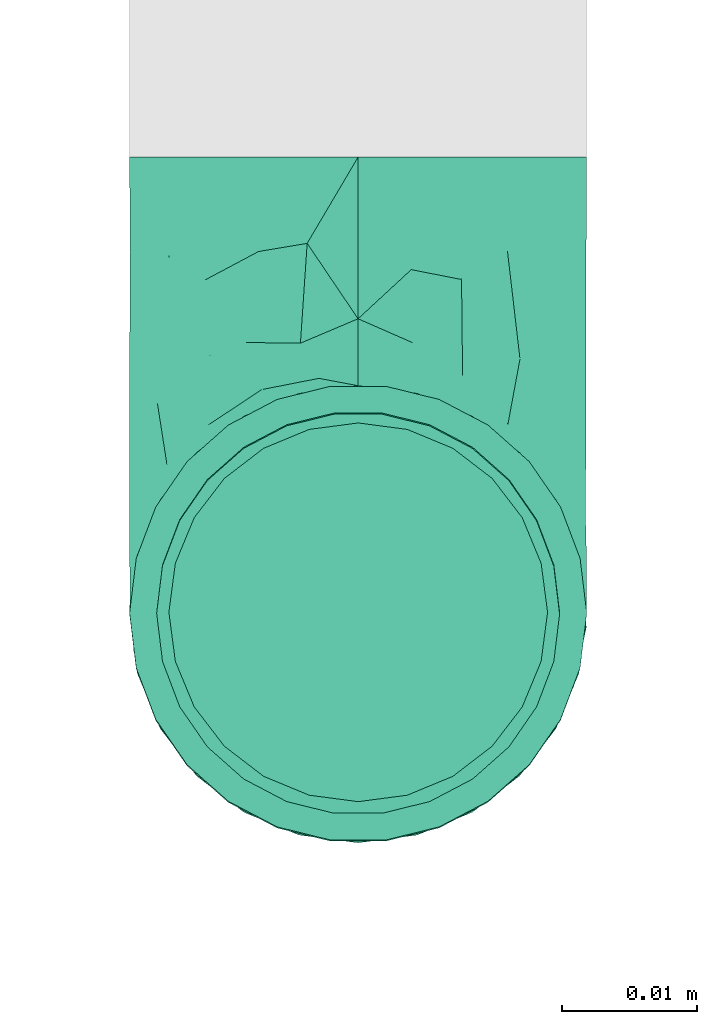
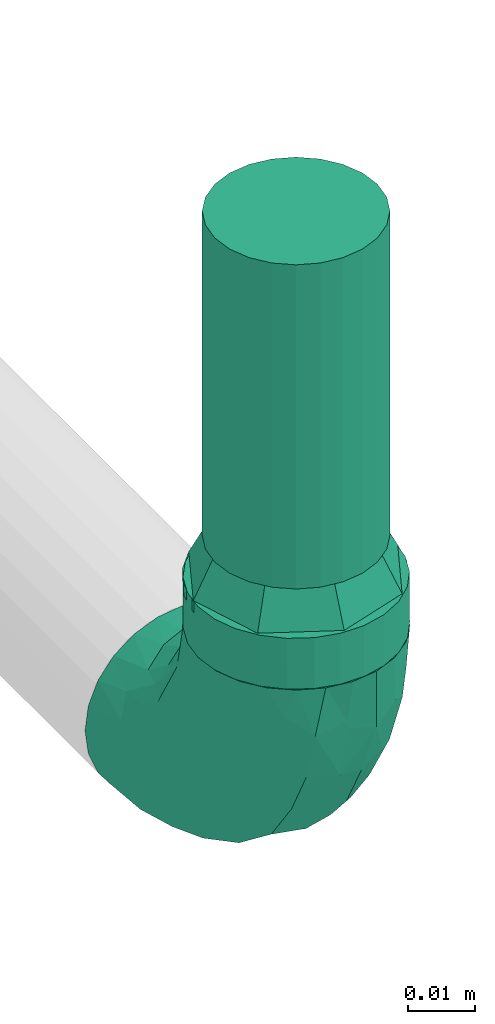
# One storey, part 26 of 43: 2 flow fittings, 1 flow segment, 1 flow terminal.
"""IFC2X3 building model written with IfcOpenShell, lengths in millimetres."""

from ifc_helpers import new_model, entity, si_unit, converted_unit, derived_unit, direction, frame, origin_with_axes, origin_2d_with_axis, place, context, subcontext, project, spatial, hollow_circle, extrude, open_shell, surface_model, source, transform, mapped, type_object, element, save


model = new_model("IFC2X3")

# Units and contexts
model_context = context("Model", 3, precision=0.01, world=frame((0.0, 4.29681676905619e-09, 0.0)), true_north=direction((4.01073788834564e-13, 1.0)))
plan_context = context("Plan", 3, precision=0.01, world=frame((0.0, 4.29681676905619e-09, 0.0)), true_north=direction((4.01073788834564e-13, 1.0)))
body_context = subcontext(model_context, "Body", "Model", "MODEL_VIEW")
ifc_project = project(units=[converted_unit("PLANEANGLEUNIT", "DEGREE", entity("IfcPositiveLengthMeasure", 0.0174532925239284), si_unit("PLANEANGLEUNIT", "RADIAN"), dimensions=[0, 0, 0, 0, 0, 0, 0]), si_unit("AREAUNIT", "SQUARE_METRE"), si_unit("LENGTHUNIT", "METRE", prefix="MILLI"), si_unit("MASSUNIT", "GRAM", prefix="KILO"), si_unit("POWERUNIT", "WATT"), si_unit("PRESSUREUNIT", "PASCAL"), si_unit("FORCEUNIT", "NEWTON", prefix="KILO"), si_unit("ELECTRICVOLTAGEUNIT", "VOLT"), si_unit("ELECTRICCURRENTUNIT", "AMPERE"), si_unit("THERMODYNAMICTEMPERATUREUNIT", "DEGREE_CELSIUS"), si_unit("TIMEUNIT", "SECOND"), si_unit("VOLUMEUNIT", "CUBIC_METRE"), derived_unit("LINEARVELOCITYUNIT", [(si_unit("LENGTHUNIT", "METRE"), 1), (si_unit("TIMEUNIT", "SECOND"), -1)]), derived_unit("VOLUMETRICFLOWRATEUNIT", [(si_unit("VOLUMEUNIT", "CUBIC_METRE"), 1), (si_unit("TIMEUNIT", "SECOND"), -1)]), derived_unit("THERMALTRANSMITTANCEUNIT", [(si_unit("POWERUNIT", "WATT"), 1), (si_unit("THERMODYNAMICTEMPERATUREUNIT", "KELVIN"), -1), (si_unit("AREAUNIT", "SQUARE_METRE"), -1)]), derived_unit("SOUNDPRESSUREUNIT", [(si_unit("PRESSUREUNIT", "PASCAL"), 1)])], contexts=[model_context, plan_context])

# Site, building, storey
site_placement = place(None, frame((0.0, -4.29681676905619e-09, 0.0), z_axis=(0.0, 0.0, 1.0), x_axis=(1.0, 0.0, 0.0)))
site = spatial("IfcSite", under=ifc_project, at=site_placement, CompositionType="ELEMENT")
building_placement = place(site_placement, frame((0.0, 4.29681676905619e-09, 0.0), z_axis=(0.0, 0.0, 1.0), x_axis=(1.0, 0.0, 0.0)))
building = spatial("IfcBuilding", under=site, at=building_placement, Name="mc-building", CompositionType="ELEMENT")
storey_placement = place(building_placement, frame((0.0, 0.0, 210900.0), z_axis=(0.0, 0.0, 1.0), x_axis=(1.0, 0.0, 0.0)))
storey = spatial("IfcBuildingStorey", under=building, at=storey_placement, Name="Nivå F", CompositionType="ELEMENT", Elevation=210900.0)

# Flow fittings
pipe_fitting_type_1 = type_object("IfcPipeFittingType", Name="magi_pipe_fe_elbow_short_001", PredefinedType="BEND")
shared_shape_1 = source(origin_with_axes(), body_context, "Body", "SurfaceModel", [
    surface_model("IfcShellBasedSurfaceModel", [(-33.8, 4.37404, -16.32415), (-33.8, 0.0, -16.9), (-33.8, 11.9501, -11.9501), (-33.8, 8.45, -14.63583), (-33.8, 16.32415, -4.37404), (-33.8, 14.63583, -8.45), (-33.8, -14.63583, -8.45), (-33.8, -16.32415, -4.37404), (-33.8, -8.45, 14.63583), (-33.8, -11.9501, -11.9501), (-33.8, -8.45, -14.63583), (-33.8, -4.37404, -16.32415), (-33.8, -16.9, 0.0), (-33.8, -16.32415, 4.37404), (-33.8, 11.9501, 11.9501), (-33.8, 14.63583, 8.45), (-33.8, 16.32415, 4.37404), (-33.8, 4.37404, 16.32415), (-33.8, 8.45, 14.63583), (-33.8, -14.63583, 8.45), (-33.8, -11.9501, 11.9501), (-33.8, -4.37404, 16.32415), (-33.8, 0.0, 16.9), (-33.8, 16.9, 0.0), (-11.9501, 33.8, -11.9501), (0.0, 33.8, -16.9), (-4.37404, 33.8, -16.32415), (-8.45, 33.8, -14.63583), (-14.63583, 33.8, -8.45), (-16.32415, 33.8, -4.37404), (14.63583, 33.8, -8.45), (8.45, 33.8, 14.63583), (16.32415, 33.8, -4.37404), (8.45, 33.8, -14.63583), (11.9501, 33.8, -11.9501), (4.37404, 33.8, -16.32415), (16.32415, 33.8, 4.37404), (16.9, 33.8, 0.0), (-11.9501, 33.8, 11.9501), (-16.32415, 33.8, 4.37404), (-14.63583, 33.8, 8.45), (-8.45, 33.8, 14.63583), (-4.37404, 33.8, 16.32415), (11.9501, 33.8, 11.9501), (14.63583, 33.8, 8.45), (0.0, 33.8, 16.9), (4.37404, 33.8, 16.32415), (-16.9, 33.8, 0.0), (-24.79389, -13.12945, 9.48721), (-22.19287, -9.75018, 12.59315), (-24.09897, -14.97035, 0.0), (-14.93934, -10.76256, 8.5297), (-22.46095, -14.75051, 5.27077), (14.75051, 22.46094, 5.27077), (11.9251, 13.23888, 4.33236), (13.04069, 14.39795, 0.0), (7.71387, 13.68847, 11.55891), (9.75018, 22.19287, 12.59315), (4.10169, 13.0571, 14.04018), (-24.84007, -6.39063, 15.2048), (-25.81779, -2.23879, 16.61097), (-23.66549, 2.59054, 16.87119), (-26.50418, 14.06512, 11.08152), (-24.21253, 17.66365, 7.72657), (-29.58514, 15.86957, 7.00283), (-6.17382, -7.5455, 0.0), (-13.23888, -11.9251, 4.33236), (-14.39795, -13.04069, 0.0), (-17.81434, 18.87373, 11.97104), (-6.30846, 29.15138, 15.82987), (-2.31622, 25.28002, 16.85849), (-29.23923, 10.23435, 13.77053), (-1.45439, -2.85688, 7.61475), (-0.28326, 0.34872, 10.09509), (-5.74484, -4.04709, 10.4122), (-4.41137, 11.31918, 16.59407), (-8.39727, 3.10034, 15.7812), (-1.72649, 9.1306, 15.53089), (-17.39909, 24.75344, 7.64977), (-26.19233, 20.0512, 0.0), (-28.14518, 17.29657, 4.25857), (-26.05147, 6.6281, 15.96447), (-5.87354, 16.61944, 16.86968), (-12.51807, 12.51807, 16.48937), (-10.06312, 7.38516, 16.81295), (-3.01882, 3.01882, 13.81718), (-13.0571, -4.10169, 14.04018), (-16.82553, -0.15166, 16.38038), (10.76256, 14.93934, 8.5297), (13.12945, 24.79389, 9.48721), (6.39063, 24.84007, 15.2048), (2.23879, 25.81779, 16.61097), (-13.68847, -7.71387, 11.55891), (14.97035, 24.09897, 0.0), (-7.30894, 22.89991, 16.09489), (-10.67958, 26.17414, 14.008), (-12.78295, 18.26924, 15.06066), (-13.88562, 22.45231, 12.93244), (-18.04944, 15.16501, 14.04434), (-23.11658, 20.08178, 4.02986), (-21.84989, 21.84989, 0.0), (-18.55817, 25.48277, 3.93065), (-13.95142, 26.94732, 11.03289), (-18.57098, 7.23906, 16.59756), (-16.58335, 4.14122, 16.89279), (-17.96666, 11.46709, 15.63151), (-9.84453, 17.54304, 16.18938), (0.15166, 16.82553, 16.38038), (-23.27207, 11.47201, 14.23154), (3.84842, 5.86994, 10.70473), (-8.0212, -7.54413, 7.93275), (1.00345, -2.19508, 4.57414), (5.13203, 3.01004, 5.90201), (5.24161, 1.7543, 2.53265), (8.70457, 7.04947, 3.99182), (-20.0512, 26.19233, 0.0), (8.4852, 8.76699, 7.09296), (-4.55488, -6.72064, 4.90681), (2.05031, -2.05031, 0.0), (7.5455, 6.17382, 0.0), (-26.75399, 2.1369, -16.845), (-14.61995, 24.73803, -11.27736), (-28.45274, -13.45335, -9.81895), (-26.00469, 6.63555, -15.96645), (-23.06726, 20.04573, -4.26202), (-13.80647, -4.26506, -14.17873), (-14.67501, -0.21081, -16.07388), (-6.7902, -0.2828, -13.8478), (-24.53586, 11.08096, -14.13417), (-26.72048, 14.00837, -11.05776), (10.0967, 24.44989, -12.75976), (5.83237, 21.40218, -15.03047), (6.66249, 28.54238, -15.38093), (-20.38182, 15.48705, -12.74596), (-15.65186, 19.64213, -13.01327), (-12.03528, 20.66498, -14.67665), (-15.61907, 15.61906, -14.83879), (-25.56551, -15.26206, 0.0), (-24.65452, -15.12934, -5.50955), (12.53268, 21.23441, -9.15363), (13.45335, 28.45274, -9.81895), (15.12934, 24.65452, -5.50955), (-7.35442, -8.31014, -5.65563), (-15.67504, -12.54494, -5.54878), (-24.44989, -10.0967, -12.75976), (0.16522, 0.41303, -9.71728), (-5.70658, -5.33066, -8.89288), (-5.13869, -2.37198, -11.53565), (-21.23441, -12.53268, -9.15363), (0.71146, 7.93863, -14.09382), (0.21081, 14.67501, -16.07388), (3.49291, 14.42772, -14.76381), (-24.89911, -2.13088, -16.591), (-28.54238, -6.66249, -15.38093), (-18.44386, -7.71663, -13.26957), (2.13088, 24.89911, -16.591), (-28.64342, 17.44413, -2.89318), (1.70017, -1.28722, -5.09504), (-16.57067, 26.81947, -7.36596), (-17.69055, 27.4263, -3.76405), (-12.89279, -9.7522, -8.66343), (-5.96611, 5.96611, -15.95814), (-20.53709, 20.09345, -8.28985), (-2.1369, 26.75399, -16.845), (-6.89872, 24.58781, -16.02578), (-10.60739, 26.53157, -13.98044), (-21.40218, -5.83237, -15.03047), (2.93192, 5.89627, -11.55917), (6.89393, 12.61842, -11.82233), (5.58056, 5.95325, -8.79455), (-3.99512, 18.61798, -16.89635), (-9.1383, 9.86148, -16.89041), (-9.99983, 16.02119, -16.39699), (-16.68576, 9.78031, -16.34199), (-27.01915, 16.61158, -7.12979), (15.26206, 25.56551, 0.0), (-18.61798, 3.99512, -16.89635), (-19.37495, 27.82495, 0.0), (9.7522, 12.89279, -8.66343), (-12.61842, -6.89393, -11.82233), (8.31014, 7.35442, -5.65563), (-18.84705, 19.14018, -10.96545), (12.54494, 15.67504, -5.54878)], [open_shell([[[0, 1, 2]], [[3, 0, 2]], [[4, 5, 2]], [[6, 2, 1]], [[2, 7, 8]], [[9, 6, 10]], [[1, 11, 10]], [[10, 6, 1]], [[2, 6, 7]], [[12, 13, 7]], [[4, 2, 14]], [[4, 15, 16]], [[4, 14, 15]], [[17, 18, 14]], [[14, 2, 8]], [[17, 14, 8]], [[19, 20, 13]], [[20, 7, 13]], [[21, 22, 8]], [[20, 8, 7]], [[8, 22, 17]], [[4, 16, 23]], [[24, 25, 26]], [[24, 26, 27]], [[24, 28, 29]], [[25, 24, 30]], [[31, 32, 24]], [[33, 30, 34]], [[33, 35, 25]], [[25, 30, 33]], [[32, 30, 24]], [[32, 36, 37]], [[38, 24, 29]], [[39, 40, 29]], [[40, 38, 29]], [[38, 41, 42]], [[38, 31, 24]], [[31, 38, 42]], [[36, 43, 44]], [[36, 32, 43]], [[31, 45, 46]], [[32, 31, 43]], [[42, 45, 31]], [[39, 29, 47]], [[20, 48, 49]], [[13, 12, 50]], [[51, 48, 52]], [[53, 54, 55]], [[48, 20, 19]], [[13, 52, 19]], [[56, 57, 58]], [[49, 8, 20]], [[49, 59, 8]], [[22, 60, 61]], [[62, 63, 64]], [[65, 66, 67]], [[57, 43, 31]], [[62, 68, 63]], [[42, 69, 70]], [[18, 71, 14]], [[21, 60, 22]], [[72, 73, 74]], [[75, 76, 77]], [[14, 62, 15]], [[40, 39, 78]], [[79, 23, 80]], [[64, 16, 15]], [[22, 61, 17]], [[17, 81, 18]], [[82, 83, 84]], [[74, 85, 86]], [[59, 86, 87]], [[88, 89, 57]], [[90, 31, 46]], [[44, 53, 36]], [[46, 45, 91]], [[54, 53, 88]], [[44, 89, 53]], [[92, 86, 49]], [[89, 44, 43]], [[8, 59, 21]], [[53, 55, 93]], [[93, 36, 53]], [[66, 52, 67]], [[94, 82, 70]], [[95, 96, 94]], [[97, 98, 96]], [[79, 99, 100]], [[41, 38, 95]], [[101, 100, 99]], [[68, 78, 63]], [[42, 41, 69]], [[23, 16, 80]], [[95, 94, 69]], [[78, 101, 99]], [[38, 102, 95]], [[70, 45, 42]], [[97, 95, 102]], [[13, 50, 52]], [[90, 57, 31]], [[57, 90, 58]], [[81, 17, 61]], [[103, 104, 84]], [[105, 81, 103]], [[38, 40, 102]], [[106, 96, 83]], [[94, 106, 82]], [[91, 70, 107]], [[71, 62, 14]], [[62, 108, 98]], [[86, 59, 49]], [[67, 52, 50]], [[60, 59, 87]], [[92, 49, 51]], [[86, 85, 76]], [[91, 90, 46]], [[37, 36, 93]], [[107, 77, 58]], [[107, 58, 90]], [[58, 85, 109]], [[110, 74, 92]], [[72, 74, 110]], [[66, 51, 52]], [[72, 111, 112]], [[113, 114, 112]], [[56, 88, 57]], [[52, 48, 19]], [[49, 48, 51]], [[57, 89, 43]], [[53, 89, 88]], [[103, 81, 61]], [[71, 81, 108]], [[16, 64, 80]], [[63, 78, 99]], [[47, 115, 101]], [[101, 115, 100]], [[40, 78, 102]], [[68, 102, 78]], [[97, 96, 95]], [[105, 98, 108]], [[103, 84, 83]], [[107, 70, 82]], [[76, 84, 87]], [[82, 84, 75]], [[70, 91, 45]], [[90, 91, 107]], [[59, 60, 21]], [[61, 60, 87]], [[73, 85, 74]], [[109, 112, 116]], [[103, 61, 104]], [[105, 103, 83]], [[96, 105, 83]], [[81, 105, 108]], [[96, 98, 105]], [[62, 98, 68]], [[61, 87, 104]], [[87, 84, 104]], [[86, 76, 87]], [[77, 76, 85]], [[58, 77, 85]], [[75, 77, 107]], [[82, 75, 107]], [[76, 75, 84]], [[81, 71, 18]], [[62, 71, 108]], [[95, 69, 41]], [[70, 69, 94]], [[62, 64, 15]], [[80, 63, 99]], [[63, 80, 64]], [[80, 99, 79]], [[66, 65, 117]], [[110, 66, 117]], [[112, 114, 116]], [[118, 117, 65]], [[110, 92, 51]], [[112, 111, 113]], [[119, 55, 54]], [[74, 86, 92]], [[58, 109, 56]], [[116, 56, 109]], [[66, 110, 51]], [[72, 110, 117]], [[111, 72, 117]], [[73, 112, 109]], [[117, 118, 111]], [[113, 111, 118]], [[118, 119, 113]], [[114, 119, 54]], [[119, 114, 113]], [[116, 54, 88]], [[54, 116, 114]], [[116, 88, 56]], [[112, 73, 72]], [[85, 73, 109]], [[78, 39, 101]], [[47, 101, 39]], [[102, 68, 97]], [[97, 68, 98]], [[82, 106, 83]], [[94, 96, 106]], [[0, 120, 1]], [[28, 24, 121]], [[9, 122, 6]], [[3, 123, 0]], [[100, 124, 79]], [[125, 126, 127]], [[128, 2, 129]], [[130, 131, 132]], [[128, 129, 133]], [[134, 135, 136]], [[128, 3, 2]], [[67, 137, 138]], [[139, 140, 141]], [[138, 7, 6]], [[142, 65, 143]], [[144, 9, 10]], [[145, 146, 147]], [[143, 138, 148]], [[149, 150, 151]], [[152, 11, 1]], [[10, 153, 144]], [[148, 144, 154]], [[153, 10, 11]], [[35, 155, 25]], [[23, 79, 156]], [[146, 157, 142]], [[158, 159, 29]], [[143, 160, 142]], [[161, 150, 149]], [[29, 28, 158]], [[121, 162, 158]], [[33, 34, 130]], [[25, 163, 26]], [[26, 163, 164]], [[140, 34, 30]], [[24, 27, 165]], [[124, 159, 162]], [[155, 35, 132]], [[153, 152, 166]], [[123, 3, 128]], [[167, 168, 169]], [[170, 155, 150]], [[26, 164, 27]], [[132, 35, 33]], [[140, 130, 34]], [[166, 152, 126]], [[133, 134, 136]], [[2, 5, 129]], [[168, 131, 130]], [[30, 32, 141]], [[170, 171, 172]], [[173, 123, 128]], [[156, 174, 4]], [[165, 27, 164]], [[172, 164, 170]], [[134, 165, 135]], [[122, 138, 6]], [[137, 12, 7]], [[32, 37, 175]], [[168, 130, 139]], [[150, 155, 131]], [[163, 155, 170]], [[151, 168, 149]], [[150, 161, 171]], [[166, 125, 154]], [[122, 144, 148]], [[120, 152, 1]], [[176, 171, 126]], [[176, 126, 152]], [[126, 161, 127]], [[160, 143, 148]], [[137, 7, 138]], [[32, 175, 141]], [[55, 141, 175]], [[174, 129, 5]], [[128, 133, 136]], [[173, 128, 136]], [[120, 123, 176]], [[121, 158, 28]], [[159, 100, 177]], [[164, 172, 135]], [[121, 24, 165]], [[159, 47, 29]], [[79, 124, 156]], [[124, 162, 174]], [[159, 124, 100]], [[178, 169, 168]], [[127, 161, 149]], [[145, 169, 157]], [[146, 142, 160]], [[127, 149, 167]], [[127, 179, 125]], [[129, 174, 162]], [[5, 4, 174]], [[157, 65, 142]], [[67, 138, 143]], [[123, 120, 0]], [[152, 120, 176]], [[155, 163, 25]], [[164, 163, 170]], [[170, 150, 171]], [[173, 136, 172]], [[126, 171, 161]], [[173, 171, 176]], [[171, 173, 172]], [[123, 173, 176]], [[148, 179, 160]], [[127, 147, 179]], [[179, 146, 160]], [[157, 146, 145]], [[169, 178, 180]], [[168, 139, 178]], [[157, 169, 180]], [[169, 145, 167]], [[167, 145, 147]], [[149, 168, 167]], [[162, 181, 129]], [[181, 121, 134]], [[179, 147, 146]], [[167, 147, 127]], [[181, 134, 133]], [[165, 134, 121]], [[164, 135, 165]], [[172, 136, 135]], [[129, 181, 133]], [[121, 181, 162]], [[159, 158, 162]], [[47, 159, 177]], [[174, 156, 124]], [[23, 156, 4]], [[130, 132, 33]], [[155, 132, 131]], [[141, 140, 30]], [[130, 140, 139]], [[152, 153, 11]], [[144, 153, 166]], [[144, 122, 9]], [[138, 122, 148]], [[150, 131, 151]], [[157, 119, 118]], [[67, 143, 65]], [[168, 151, 131]], [[119, 157, 180]], [[157, 118, 65]], [[154, 125, 179]], [[126, 125, 166]], [[148, 154, 179]], [[166, 154, 144]], [[139, 182, 178]], [[141, 182, 139]], [[178, 182, 180]], [[182, 55, 119]], [[141, 55, 182]], [[182, 119, 180]]])]),
])
flow_fitting_1_placement = place(storey_placement, frame((608270.34731, 694297.03566, 2660.0), z_axis=(1.0, 0.0, 0.0), x_axis=(0.0, 0.0, -1.0)))
element("IfcFlowFitting", 1, at=flow_fitting_1_placement, inside=storey, type_object=pipe_fitting_type_1, Name="magi_pipe_fe_elbow_short_001", context=body_context, shape_type="MappedRepresentation", body=[
    mapped(shared_shape_1, transform((0.0, 0.0, 0.0), scale=1.0)),
])
pipe_fitting_type_2 = type_object("IfcPipeFittingType", Name="magi_pipe_fe_reducer_centric_short_NOR", PredefinedType="TRANSITION")
shared_shape_2 = source(origin_with_axes(), body_context, "Body", "SurfaceModel", [
    surface_model("IfcShellBasedSurfaceModel", [(-2.0, 11.9501, 11.9501), (-2.0, 0.0, 16.9), (-2.0, 4.37404, 16.32415), (-2.0, 8.45, 14.63583), (-2.0, 14.63583, 8.45), (-2.0, 16.32415, 4.37404), (-2.0, -16.32415, 4.37404), (-2.0, -8.45, 14.63583), (-2.0, -14.63583, 8.45), (-2.0, -11.9501, 11.9501), (-2.0, -4.37404, 16.32415), (-2.0, -16.32415, -4.37404), (-2.0, -16.9, 0.0), (-2.0, -8.45, -14.63583), (-2.0, 16.32415, -4.37404), (-2.0, 11.9501, -11.9501), (-2.0, 14.63583, -8.45), (-2.0, 8.45, -14.63583), (-2.0, 4.37404, -16.32415), (-2.0, 0.0, -16.9), (-2.0, -11.9501, -11.9501), (-2.0, -14.63583, -8.45), (-2.0, -4.37404, -16.32415), (-2.0, 16.9, 0.0), (0.0, 4.37404, -16.32415), (0.0, 8.45, -14.63583), (0.0, 11.9501, -11.9501), (0.0, 0.0, -16.9), (0.0, 16.32415, -4.37404), (0.0, 16.32415, 4.37404), (0.0, 14.63583, -8.45), (0.0, -8.45, -14.63583), (0.0, -4.37404, -16.32415), (0.0, -11.9501, -11.9501), (0.0, -16.32415, -4.37404), (0.0, -14.63583, -8.45), (0.0, -16.32415, 4.37404), (0.0, 16.9, 0.0), (0.0, 14.63583, 8.45), (0.0, 11.9501, 11.9501), (0.0, 4.37404, 16.32415), (0.0, 8.45, 14.63583), (0.0, 0.0, 16.9), (0.0, -14.63583, 8.45), (0.0, -16.9, 0.0), (0.0, -8.45, 14.63583), (0.0, -11.9501, 11.9501), (0.0, -4.37404, 16.32415), (9.0, 12.94341, -3.46818), (9.0, 3.46818, -12.94341), (9.0, 6.7, -11.60474), (9.0, 9.47523, -9.47523), (9.0, -6.7, -11.60474), (9.0, -12.94341, 3.46818), (9.0, 11.60474, -6.7), (9.0, 0.0, -13.4), (9.0, -3.46818, -12.94341), (9.0, -9.47523, -9.47523), (9.0, -12.94341, -3.46818), (9.0, -11.60474, -6.7), (9.0, 13.4, 0.0), (9.0, 12.94341, 3.46818), (9.0, 11.60474, 6.7), (9.0, 9.47523, 9.47523), (9.0, 0.0, 13.4), (9.0, 6.7, 11.60474), (9.0, 3.46818, 12.94341), (9.0, -6.7, 11.60474), (9.0, -9.47523, 9.47523), (9.0, -11.60474, 6.7), (9.0, -13.4, 0.0), (9.0, -3.46818, 12.94341), (7.0, 0.0, 13.4), (7.0, 3.46818, 12.94341), (7.0, 6.7, 11.60474), (7.0, -3.46818, 12.94341), (7.0, 9.47523, 9.47523), (7.0, 11.60474, 6.7), (7.0, 12.94341, 3.46818), (7.0, -12.94341, 3.46818), (7.0, -9.47523, 9.47523), (7.0, -6.7, 11.60474), (7.0, -11.60474, 6.7), (7.0, -12.94341, -3.46818), (7.0, -13.4, 0.0), (7.0, -6.7, -11.60474), (7.0, 12.94341, -3.46818), (7.0, 9.47523, -9.47523), (7.0, 11.60474, -6.7), (7.0, 6.7, -11.60474), (7.0, 3.46818, -12.94341), (7.0, -9.47523, -9.47523), (7.0, -11.60474, -6.7), (7.0, 0.0, -13.4), (7.0, -3.46818, -12.94341), (7.0, 13.4, 0.0), (0.0, 13.18758, -8.96258), (0.0, 14.42505, -5.97505), (7.0, 10.491, -7.02294), (7.0, 11.50677, -4.57065), (0.0, 15.66253, -2.98753), (7.0, 12.45339, -2.28533), (0.0, 2.98753, -15.66253), (0.0, 5.97505, -14.42505), (0.0, 8.96258, -13.18758), (7.0, 4.73762, -11.43761), (7.0, 7.10642, -10.45642), (7.0, 2.36881, -12.41881), (0.0, -14.42505, -5.97505), (7.0, -11.43761, -4.73762), (7.0, -12.41881, -2.36881), (7.0, -2.36881, -12.41881), (7.0, -10.45642, -7.10642), (0.0, -15.70614, -2.88224), (0.0, -13.18758, -8.96258), (7.0, -4.73762, -11.43761), (7.0, -7.10642, -10.45642), (0.0, -5.97505, -14.42505), (0.0, -2.98753, -15.66253), (0.0, -8.96258, -13.18758), (0.0, -13.18758, 8.96258), (0.0, -14.42505, 5.97505), (7.0, -10.491, 7.02294), (7.0, -11.50677, 4.57065), (0.0, -15.66253, 2.98753), (7.0, -12.45339, 2.28533), (0.0, -2.98753, 15.66253), (0.0, -5.97505, 14.42505), (0.0, -8.96258, 13.18758), (7.0, -4.73762, 11.43761), (7.0, -7.10642, 10.45642), (7.0, -2.36881, 12.41881), (0.0, 14.42505, 5.97505), (7.0, 11.43761, 4.73762), (7.0, 12.41881, 2.36881), (7.0, 2.36881, 12.41881), (7.0, 10.45642, 7.10642), (0.0, 15.70614, 2.88224), (0.0, 13.18758, 8.96258), (7.0, 4.73762, 11.43761), (7.0, 7.10642, 10.45642), (0.0, 5.97505, 14.42505), (0.0, 2.98753, 15.66253), (0.0, 8.96258, 13.18758)], [open_shell([[[0, 1, 2]], [[0, 2, 3]], [[0, 4, 5]], [[0, 5, 1]], [[1, 5, 6]], [[7, 8, 9]], [[7, 10, 1]], [[8, 7, 1]], [[1, 6, 8]], [[6, 11, 12]], [[6, 5, 13]], [[5, 14, 15]], [[15, 14, 16]], [[15, 17, 18]], [[13, 5, 15]], [[19, 15, 18]], [[11, 20, 21]], [[20, 11, 13]], [[13, 19, 22]], [[11, 6, 13]], [[15, 19, 13]], [[5, 23, 14]], [[24, 25, 26]], [[27, 24, 26]], [[26, 28, 29]], [[28, 26, 30]], [[26, 29, 31]], [[27, 31, 32]], [[27, 26, 31]], [[33, 34, 35]], [[34, 33, 31]], [[31, 36, 34]], [[29, 28, 37]], [[29, 38, 39]], [[29, 39, 40]], [[40, 36, 31]], [[40, 39, 41]], [[36, 40, 42]], [[42, 43, 36]], [[44, 34, 36]], [[43, 45, 46]], [[43, 42, 45]], [[45, 42, 47]], [[31, 29, 40]], [[11, 34, 12]], [[21, 35, 11]], [[31, 20, 13]], [[21, 20, 33]], [[32, 13, 22]], [[11, 35, 34]], [[34, 44, 12]], [[32, 31, 13]], [[33, 20, 31]], [[33, 35, 21]], [[27, 32, 22]], [[22, 19, 27]], [[18, 24, 19]], [[17, 25, 18]], [[30, 15, 16]], [[17, 15, 26]], [[28, 16, 14]], [[17, 26, 25]], [[25, 24, 18]], [[37, 28, 14]], [[30, 16, 28]], [[30, 26, 15]], [[23, 37, 14]], [[19, 24, 27]], [[5, 29, 23]], [[4, 38, 5]], [[41, 0, 3]], [[4, 0, 39]], [[40, 3, 2]], [[5, 38, 29]], [[29, 37, 23]], [[40, 41, 3]], [[39, 0, 41]], [[39, 38, 4]], [[42, 40, 2]], [[2, 1, 42]], [[10, 47, 1]], [[7, 45, 10]], [[43, 9, 8]], [[7, 9, 46]], [[36, 8, 6]], [[7, 46, 45]], [[45, 47, 10]], [[44, 36, 6]], [[43, 8, 36]], [[43, 46, 9]], [[12, 44, 6]], [[1, 47, 42]], [[33, 44, 27]], [[42, 39, 46]], [[39, 27, 44]], [[44, 46, 39]], [[48, 49, 50]], [[48, 50, 51]], [[52, 49, 53]], [[48, 51, 54]], [[49, 48, 53]], [[55, 52, 56]], [[55, 49, 52]], [[57, 58, 59]], [[53, 58, 57]], [[57, 52, 53]], [[48, 60, 53]], [[61, 62, 63]], [[61, 63, 64]], [[65, 66, 64]], [[65, 64, 63]], [[61, 64, 67]], [[53, 68, 69]], [[70, 58, 53]], [[53, 67, 68]], [[53, 61, 67]], [[71, 67, 64]], [[53, 60, 61]], [[72, 73, 74]], [[75, 72, 74]], [[76, 77, 78]], [[74, 76, 75]], [[78, 79, 76]], [[75, 80, 81]], [[80, 75, 79]], [[80, 79, 82]], [[75, 76, 79]], [[79, 83, 84]], [[79, 78, 85]], [[86, 87, 78]], [[87, 86, 88]], [[89, 85, 78]], [[78, 87, 89]], [[85, 89, 90]], [[83, 91, 92]], [[83, 79, 91]], [[85, 93, 94]], [[79, 85, 91]], [[90, 93, 85]], [[95, 86, 78]], [[83, 58, 84]], [[92, 59, 83]], [[52, 91, 85]], [[92, 91, 57]], [[56, 85, 94]], [[83, 59, 58]], [[58, 70, 84]], [[56, 52, 85]], [[57, 91, 52]], [[57, 59, 92]], [[55, 56, 94]], [[94, 93, 55]], [[90, 49, 93]], [[89, 50, 90]], [[54, 87, 88]], [[89, 87, 51]], [[48, 88, 86]], [[89, 51, 50]], [[50, 49, 90]], [[60, 48, 86]], [[54, 88, 48]], [[54, 51, 87]], [[95, 60, 86]], [[93, 49, 55]], [[78, 61, 95]], [[77, 62, 78]], [[65, 76, 74]], [[77, 76, 63]], [[66, 74, 73]], [[78, 62, 61]], [[61, 60, 95]], [[66, 65, 74]], [[63, 76, 65]], [[63, 62, 77]], [[64, 66, 73]], [[73, 72, 64]], [[75, 71, 72]], [[81, 67, 75]], [[69, 80, 82]], [[81, 80, 68]], [[53, 82, 79]], [[81, 68, 67]], [[67, 71, 75]], [[70, 53, 79]], [[69, 82, 53]], [[69, 68, 80]], [[84, 70, 79]], [[72, 71, 64]], [[72, 80, 95]], [[95, 76, 72]], [[80, 91, 95]], [[91, 93, 95]], [[87, 95, 93]], [[80, 84, 91]], [[26, 27, 39]], [[39, 37, 26]], [[96, 97, 98]], [[99, 100, 101]], [[37, 95, 101]], [[93, 27, 102]], [[103, 104, 105]], [[104, 26, 106]], [[87, 26, 96]], [[103, 107, 102]], [[108, 109, 110]], [[37, 101, 100]], [[27, 93, 111]], [[112, 33, 91]], [[110, 84, 113]], [[109, 114, 112]], [[33, 112, 114]], [[115, 116, 117]], [[115, 118, 111]], [[93, 102, 107]], [[116, 91, 119]], [[27, 111, 118]], [[97, 99, 98]], [[87, 96, 98]], [[100, 99, 97]], [[26, 87, 106]], [[105, 104, 106]], [[107, 103, 105]], [[84, 44, 113]], [[108, 110, 113]], [[114, 109, 108]], [[91, 33, 119]], [[117, 116, 119]], [[118, 115, 117]], [[120, 121, 122]], [[123, 124, 125]], [[44, 84, 125]], [[72, 42, 126]], [[127, 128, 129]], [[128, 46, 130]], [[80, 46, 120]], [[127, 131, 126]], [[132, 133, 134]], [[44, 125, 124]], [[42, 72, 135]], [[136, 39, 76]], [[134, 95, 137]], [[133, 138, 136]], [[39, 136, 138]], [[139, 140, 141]], [[139, 142, 135]], [[72, 126, 131]], [[140, 76, 143]], [[42, 135, 142]], [[121, 123, 122]], [[80, 120, 122]], [[124, 123, 121]], [[46, 80, 130]], [[129, 128, 130]], [[131, 127, 129]], [[95, 37, 137]], [[132, 134, 137]], [[138, 133, 132]], [[76, 39, 143]], [[141, 140, 143]], [[142, 139, 141]]])]),
])
flow_fitting_2_placement = place(storey_placement, frame((608270.37524, 694297.38877, 2703.07566), z_axis=(-0.0788420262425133, -0.996846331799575, 0.00901807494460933), x_axis=(0.00071100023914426, 0.00899000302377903, 0.999959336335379)))
element("IfcFlowFitting", 2, at=flow_fitting_2_placement, inside=storey, type_object=pipe_fitting_type_2, Name="magi_pipe_fe_reducer_centric_short_NOR", context=body_context, shape_type="MappedRepresentation", body=[
    mapped(shared_shape_2, transform((0.0, 0.0, 0.0), scale=1.0)),
])

# Flow segment
pipe_segment_type = type_object("IfcPipeSegmentType", Name="Stålrør normaltykke", PredefinedType="RIGIDSEGMENT")
shared_shape_3 = source(origin_with_axes(), body_context, "Body", "SweptSolid", [
    extrude(hollow_circle(Radius=16.9, WallThickness=2.0, at=origin_2d_with_axis()), frame((0.0, 0.0, 0.0), z_axis=(1.0, 0.0, 0.0), x_axis=(0.0, 1.0, 0.0)), (0.0, 0.0, 1.0), 9.2),
])
flow_segment_placement = place(storey_placement, frame((608270.34731, 694297.03566, 2693.79999999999), z_axis=(6.0000008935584e-06, -0.999959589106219, 0.00899000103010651), x_axis=(0.00071100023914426, 0.00899000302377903, 0.999959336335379)))
element("IfcFlowSegment", 3, at=flow_segment_placement, inside=storey, type_object=pipe_segment_type, Name="Stålrør normaltykke", context=body_context, shape_type="MappedRepresentation", body=[
    mapped(shared_shape_3, transform((0.0, 0.0, 0.0), scale=1.0)),
])

# Flow terminal
fire_suppression_terminal_type = type_object("IfcFireSuppressionTerminalType", Name="SU-20-K115-68DGR-STD", PredefinedType="NOTDEFINED")
shared_shape_4 = source(origin_with_axes(), body_context, "Body", "SurfaceModel", [
    surface_model("IfcShellBasedSurfaceModel", [(3.62347, -13.52296, 59.0), (-3.62347, -13.52296, 59.0), (0.0, -14.0, 59.0), (12.12436, -7.0, 59.0), (7.0, -12.12436, 59.0), (-9.89949, -9.89949, 59.0), (13.52296, 3.62347, 59.0), (9.89949, -9.89949, 59.0), (-7.0, -12.12436, 59.0), (-12.12436, -7.0, 59.0), (-14.0, 0.0, 59.0), (-13.52296, -3.62347, 59.0), (-13.52296, 3.62347, 59.0), (13.52296, -3.62347, 59.0), (14.0, 0.0, 59.0), (9.89949, 9.89949, 59.0), (12.12436, 7.0, 59.0), (7.0, 12.12436, 59.0), (3.62347, 13.52296, 59.0), (-9.89949, 9.89949, 59.0), (-12.12436, 7.0, 59.0), (0.0, 14.0, 59.0), (-3.62347, 13.52296, 59.0), (-7.0, 12.12436, 59.0), (9.89949, 9.89949, 0.0), (0.0, 14.0, 0.0), (3.62347, 13.52296, 0.0), (7.0, 12.12436, 0.0), (12.12436, 7.0, 0.0), (13.52296, 3.62347, 0.0), (-9.89949, -9.89949, 0.0), (-3.62347, 13.52296, 0.0), (-9.89949, 9.89949, 0.0), (-7.0, 12.12436, 0.0), (-13.52296, 3.62347, 0.0), (-12.12436, 7.0, 0.0), (-14.0, 0.0, 0.0), (3.62347, -13.52296, 0.0), (14.0, 0.0, 0.0), (13.52296, -3.62347, 0.0), (12.12436, -7.0, 0.0), (7.0, -12.12436, 0.0), (9.89949, -9.89949, 0.0), (-12.12436, -7.0, 0.0), (-13.52296, -3.62347, 0.0), (-3.62347, -13.52296, 0.0), (-7.0, -12.12436, 0.0), (0.0, -14.0, 0.0)], [open_shell([[[0, 1, 2]], [[3, 0, 4]], [[5, 0, 6]], [[3, 4, 7]], [[6, 0, 3]], [[1, 5, 8]], [[1, 0, 5]], [[9, 10, 11]], [[10, 9, 5]], [[5, 12, 10]], [[3, 13, 14]], [[12, 5, 6]], [[15, 6, 16]], [[15, 17, 18]], [[15, 18, 6]], [[12, 6, 18]], [[12, 19, 20]], [[19, 12, 21]], [[19, 22, 23]], [[22, 19, 21]], [[12, 18, 21]], [[6, 3, 14]], [[24, 25, 26]], [[24, 26, 27]], [[24, 28, 29]], [[24, 29, 25]], [[30, 31, 25]], [[31, 32, 33]], [[32, 31, 34]], [[32, 34, 35]], [[36, 34, 30]], [[30, 34, 31]], [[25, 29, 37]], [[38, 39, 40]], [[37, 29, 40]], [[41, 37, 40]], [[41, 40, 42]], [[25, 37, 30]], [[36, 43, 44]], [[30, 43, 36]], [[30, 45, 46]], [[30, 37, 45]], [[47, 45, 37]], [[40, 29, 38]], [[11, 44, 43]], [[30, 9, 43]], [[8, 46, 45]], [[30, 46, 5]], [[1, 45, 47]], [[44, 10, 36]], [[44, 11, 10]], [[43, 9, 11]], [[30, 5, 9]], [[8, 5, 46]], [[45, 1, 8]], [[47, 2, 1]], [[0, 37, 41]], [[42, 4, 41]], [[3, 40, 39]], [[42, 40, 7]], [[13, 39, 38]], [[37, 0, 2]], [[41, 4, 0]], [[42, 7, 4]], [[40, 3, 7]], [[13, 3, 39]], [[38, 14, 13]], [[37, 2, 47]], [[6, 38, 29]], [[17, 27, 26]], [[27, 15, 24]], [[18, 26, 25]], [[29, 16, 6]], [[6, 14, 38]], [[28, 15, 16]], [[28, 24, 15]], [[15, 27, 17]], [[26, 18, 17]], [[28, 16, 29]], [[25, 21, 18]], [[22, 31, 33]], [[32, 23, 33]], [[20, 35, 34]], [[32, 35, 19]], [[12, 34, 36]], [[31, 22, 21]], [[33, 23, 22]], [[32, 19, 23]], [[35, 20, 19]], [[12, 20, 34]], [[36, 10, 12]], [[31, 21, 25]]])]),
])
flow_terminal_placement = place(storey_placement, frame((608270.35888, 694297.182, 2710.07782000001), z_axis=(0.0, 0.0, 1.0), x_axis=(1.0, 0.0, 0.0)))
element("IfcFlowTerminal", 4, at=flow_terminal_placement, inside=storey, type_object=fire_suppression_terminal_type, Name="SU-20-K115-68DGR-STD", context=body_context, shape_type="MappedRepresentation", body=[
    mapped(shared_shape_4, transform((0.0, 0.0, 0.0), scale=1.0)),
])

save(model, "model.ifc")
